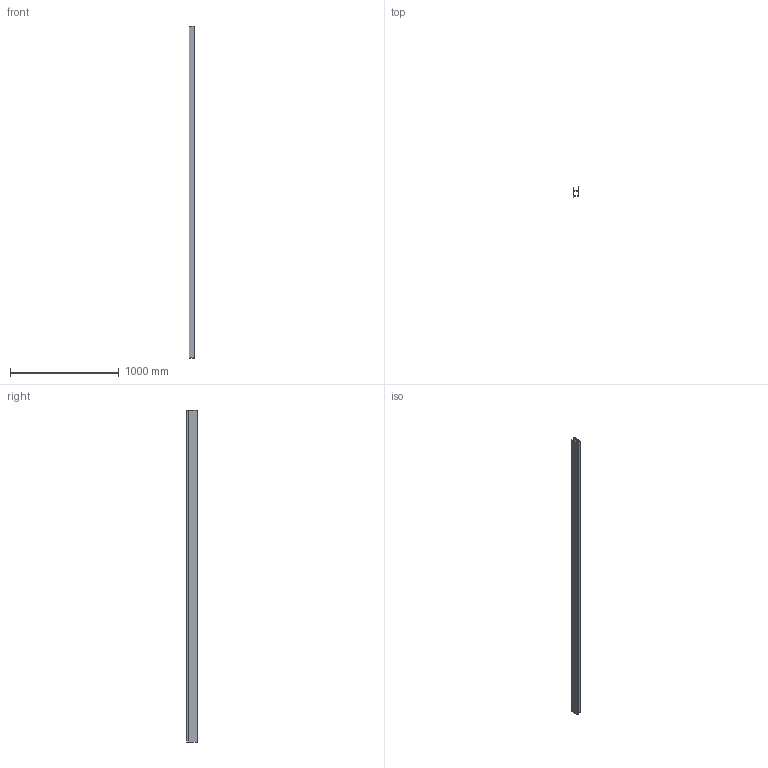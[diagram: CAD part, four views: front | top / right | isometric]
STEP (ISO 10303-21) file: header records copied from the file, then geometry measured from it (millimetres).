
FILE_DESCRIPTION(/* description */ (''),/* implementation_level */ '2;1');
FILE_NAME(/* name */ 'M12J.stp',/* time_stamp */ '2025-05-14T09:31:56-04:00',/* author */ ('gabrielle.gilbert'),/* organization */ (''),/* preprocessor_version */ 'ST-DEVELOPER v20',/* originating_system */ 'Autodesk Inventor 2025',/* authorisation */ '');
FILE_SCHEMA (('AUTOMOTIVE_DESIGN { 1 0 10303 214 3 1 1 }'));
Length unit declared in the file: inch
Products named in the file (3): M12J; M12I (1-2); M12I (2-2)
Assembly tree (2 placements, depth 2):
  M12J
    M12I (1-2)
    M12I (2-2)
Bounding box: 49.45 x 100.77 x 3048 mm (x, y, z)
Volume: 426731.3 mm3; surface area: 1882967.8 mm2
Topology: 2 solids, 2 shells, 36 faces, 96 edges, 64 vertices
Faces by surface type: plane 24, cylinder 12
Entity records: 1233 total; most frequent: DIRECTION 202, CARTESIAN_POINT 201, ORIENTED_EDGE 192, EDGE_CURVE 96, LINE 72, VECTOR 72, AXIS2_PLACEMENT_3D 65, VERTEX_POINT 64
